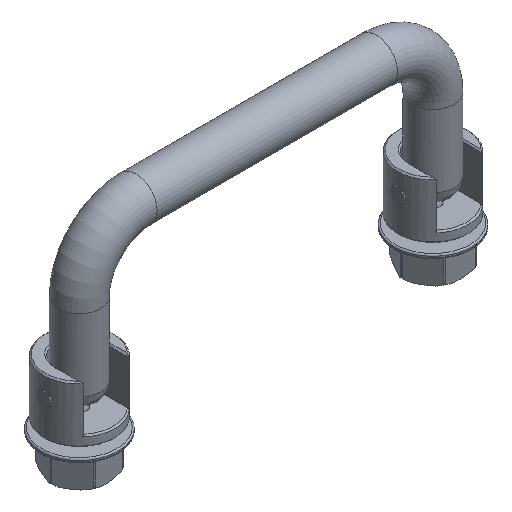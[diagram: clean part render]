
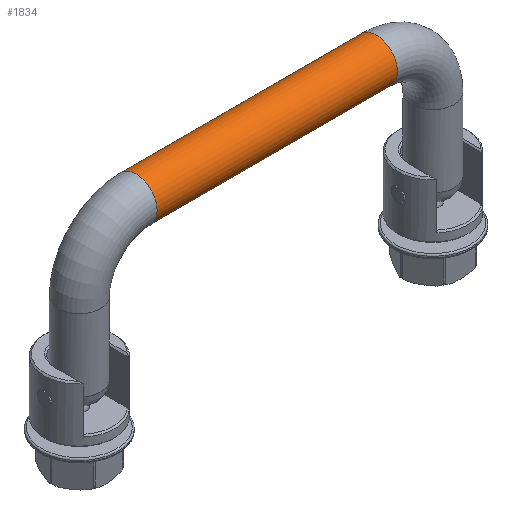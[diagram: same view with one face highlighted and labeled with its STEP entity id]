
A CAD part, isometric view. The second image highlights one B-rep face of the part: STEP entity #1834.
In plain terms, the highlighted cylindrical face has radius 3 mm (diameter 6 mm), a full revolution.
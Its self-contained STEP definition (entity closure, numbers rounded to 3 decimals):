
#234=FACE_BOUND('',#446,.T.);
#275=CIRCLE('',#1945,3.);
#276=CIRCLE('',#1947,3.);
#343=FACE_OUTER_BOUND('',#445,.T.);
#445=EDGE_LOOP('',(#1279));
#446=EDGE_LOOP('',(#1280));
#728=VERTEX_POINT('',#2733);
#729=VERTEX_POINT('',#2736);
#966=EDGE_CURVE('',#728,#728,#275,.T.);
#967=EDGE_CURVE('',#729,#729,#276,.T.);
#1279=ORIENTED_EDGE('',*,*,#967,.T.);
#1280=ORIENTED_EDGE('',*,*,#966,.F.);
#1793=CYLINDRICAL_SURFACE('',#1946,3.);
#1834=ADVANCED_FACE('',(#343,#234),#1793,.T.);
#1945=AXIS2_PLACEMENT_3D('',#2734,#2143,#2144);
#1946=AXIS2_PLACEMENT_3D('',#2735,#2145,#2146);
#1947=AXIS2_PLACEMENT_3D('',#2737,#2147,#2148);
#2143=DIRECTION('center_axis',(1.,0.,0.));
#2144=DIRECTION('ref_axis',(0.,0.,-1.));
#2145=DIRECTION('center_axis',(1.,0.,0.));
#2146=DIRECTION('ref_axis',(0.,0.,-1.));
#2147=DIRECTION('center_axis',(1.,0.,0.));
#2148=DIRECTION('ref_axis',(0.,0.,-1.));
#2733=CARTESIAN_POINT('',(17.,0.,23.5));
#2734=CARTESIAN_POINT('Origin',(17.,0.,20.5));
#2735=CARTESIAN_POINT('Origin',(-17.,0.,20.5));
#2736=CARTESIAN_POINT('',(-17.,0.,17.5));
#2737=CARTESIAN_POINT('Origin',(-17.,0.,20.5));
